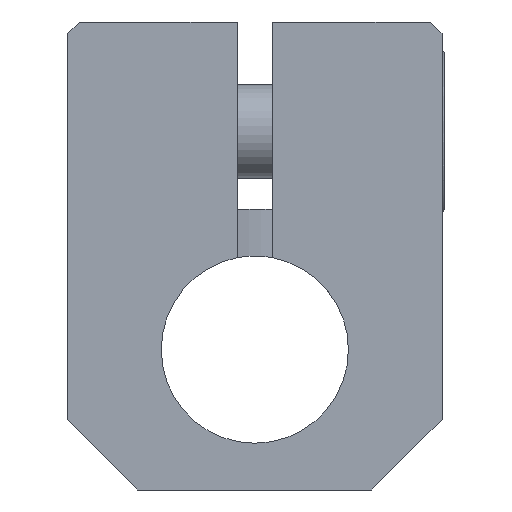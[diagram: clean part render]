
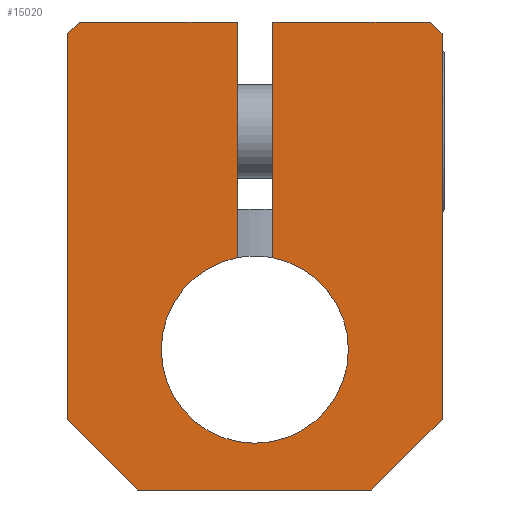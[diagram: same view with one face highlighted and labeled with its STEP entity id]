
A CAD part, front view. The second image highlights one B-rep face of the part: STEP entity #15020.
In plain terms, the highlighted planar face has unit normal (0, -1, 0).
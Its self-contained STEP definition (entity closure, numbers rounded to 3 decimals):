
#26 = CARTESIAN_POINT ( 'NONE',  ( -36.362, 8.446, 0. ) ) ;
#308 = LINE ( 'NONE', #19955, #21726 ) ;
#405 = DIRECTION ( 'NONE',  ( -0.707, 0., 0.707 ) ) ;
#490 = CIRCLE ( 'NONE', #16344, 4. ) ;
#657 = EDGE_CURVE ( 'NONE', #9754, #895, #673, .T. ) ;
#673 = LINE ( 'NONE', #18815, #9529 ) ;
#895 = VERTEX_POINT ( 'NONE', #19862 ) ;
#1007 = ORIENTED_EDGE ( 'NONE', *, *, #11173, .F. ) ;
#1123 = CARTESIAN_POINT ( 'NONE',  ( -45.112, 8.446, 9.5 ) ) ;
#1266 = CARTESIAN_POINT ( 'NONE',  ( -42.112, 8.446, -10. ) ) ;
#1581 = ORIENTED_EDGE ( 'NONE', *, *, #15872, .F. ) ;
#1660 = DIRECTION ( 'NONE',  ( -0.707, 0., -0.707 ) ) ;
#2142 = LINE ( 'NONE', #19389, #15236 ) ;
#2280 = CARTESIAN_POINT ( 'NONE',  ( -37.112, 8.446, -4. ) ) ;
#2556 = ORIENTED_EDGE ( 'NONE', *, *, #16098, .F. ) ;
#2572 = PLANE ( 'NONE',  #14380 ) ;
#2804 = CARTESIAN_POINT ( 'NONE',  ( -45.112, 8.446, -10. ) ) ;
#2978 = DIRECTION ( 'NONE',  ( 0., -1., 0. ) ) ;
#3030 = VECTOR ( 'NONE', #3828, 1000. ) ;
#3295 = LINE ( 'NONE', #3530, #3030 ) ;
#3306 = EDGE_CURVE ( 'NONE', #19712, #17186, #2142, .T. ) ;
#3530 = CARTESIAN_POINT ( 'NONE',  ( -44.612, 8.446, 10. ) ) ;
#3828 = DIRECTION ( 'NONE',  ( 0.707, 0., 0.707 ) ) ;
#3851 = CARTESIAN_POINT ( 'NONE',  ( -37.112, 8.446, -4. ) ) ;
#4129 = AXIS2_PLACEMENT_3D ( 'NONE', #3851, #9193, #14764 ) ;
#4144 = CARTESIAN_POINT ( 'NONE',  ( -36.362, 8.446, -0.071 ) ) ;
#4895 = CARTESIAN_POINT ( 'NONE',  ( -37.112, 8.446, 10. ) ) ;
#5037 = LINE ( 'NONE', #26, #20952 ) ;
#5063 = CARTESIAN_POINT ( 'NONE',  ( -37.862, 8.446, 4.965 ) ) ;
#5084 = VERTEX_POINT ( 'NONE', #17810 ) ;
#5197 = CIRCLE ( 'NONE', #20808, 4. ) ;
#5969 = VERTEX_POINT ( 'NONE', #9578 ) ;
#6075 = VERTEX_POINT ( 'NONE', #6305 ) ;
#6192 = DIRECTION ( 'NONE',  ( 0., 0., 1. ) ) ;
#6305 = CARTESIAN_POINT ( 'NONE',  ( -29.112, 8.446, 9.5 ) ) ;
#6776 = CARTESIAN_POINT ( 'NONE',  ( -37.112, 8.446, -10. ) ) ;
#7203 = ORIENTED_EDGE ( 'NONE', *, *, #657, .F. ) ;
#7501 = VERTEX_POINT ( 'NONE', #10791 ) ;
#7607 = DIRECTION ( 'NONE',  ( -1., 0., 0. ) ) ;
#8213 = CARTESIAN_POINT ( 'NONE',  ( -37.112, 8.446, -4. ) ) ;
#8334 = ORIENTED_EDGE ( 'NONE', *, *, #13811, .T. ) ;
#8383 = EDGE_LOOP ( 'NONE', ( #16024, #21015, #20953, #11665, #21418, #7203, #10353, #8733, #1007, #8334, #20639, #20042, #1581, #2556 ) ) ;
#8589 = CARTESIAN_POINT ( 'NONE',  ( -29.362, 8.446, 9.75 ) ) ;
#8733 = ORIENTED_EDGE ( 'NONE', *, *, #3306, .F. ) ;
#8814 = EDGE_CURVE ( 'NONE', #15565, #895, #12792, .T. ) ;
#8877 = CARTESIAN_POINT ( 'NONE',  ( -37.112, 8.446, 10. ) ) ;
#9193 = DIRECTION ( 'NONE',  ( 0., -1., 0. ) ) ;
#9529 = VECTOR ( 'NONE', #13551, 1000. ) ;
#9578 = CARTESIAN_POINT ( 'NONE',  ( -36.362, 8.446, 10. ) ) ;
#9698 = EDGE_CURVE ( 'NONE', #5969, #11908, #10965, .T. ) ;
#9754 = VERTEX_POINT ( 'NONE', #1266 ) ;
#10353 = ORIENTED_EDGE ( 'NONE', *, *, #10865, .F. ) ;
#10356 = DIRECTION ( 'NONE',  ( -1., 0., 0. ) ) ;
#10791 = CARTESIAN_POINT ( 'NONE',  ( -41.112, 8.446, -4. ) ) ;
#10865 = EDGE_CURVE ( 'NONE', #17186, #9754, #10891, .T. ) ;
#10891 = LINE ( 'NONE', #6776, #17564 ) ;
#10965 = LINE ( 'NONE', #4895, #12956 ) ;
#11050 = CARTESIAN_POINT ( 'NONE',  ( -33.112, 8.446, -4. ) ) ;
#11173 = EDGE_CURVE ( 'NONE', #6075, #19712, #308, .T. ) ;
#11177 = VERTEX_POINT ( 'NONE', #4144 ) ;
#11474 = EDGE_CURVE ( 'NONE', #5084, #12517, #21702, .T. ) ;
#11636 = EDGE_CURVE ( 'NONE', #15565, #12877, #3295, .T. ) ;
#11665 = ORIENTED_EDGE ( 'NONE', *, *, #11636, .F. ) ;
#11908 = VERTEX_POINT ( 'NONE', #22186 ) ;
#12495 = DIRECTION ( 'NONE',  ( 1., 0., 0. ) ) ;
#12517 = VERTEX_POINT ( 'NONE', #13828 ) ;
#12792 = LINE ( 'NONE', #18285, #21693 ) ;
#12808 = EDGE_CURVE ( 'NONE', #5084, #7501, #22848, .T. ) ;
#12877 = VERTEX_POINT ( 'NONE', #14981 ) ;
#12956 = VECTOR ( 'NONE', #17426, 1000. ) ;
#13551 = DIRECTION ( 'NONE',  ( -0.707, 0., 0.707 ) ) ;
#13750 = LINE ( 'NONE', #8877, #18468 ) ;
#13811 = EDGE_CURVE ( 'NONE', #6075, #11908, #15225, .T. ) ;
#13828 = CARTESIAN_POINT ( 'NONE',  ( -37.862, 8.446, 10. ) ) ;
#14065 = CARTESIAN_POINT ( 'NONE',  ( -29.112, 8.446, -7. ) ) ;
#14106 = VECTOR ( 'NONE', #405, 1000. ) ;
#14380 = AXIS2_PLACEMENT_3D ( 'NONE', #2804, #16867, #6192 ) ;
#14764 = DIRECTION ( 'NONE',  ( -1., 0., 0. ) ) ;
#14981 = CARTESIAN_POINT ( 'NONE',  ( -44.612, 8.446, 10. ) ) ;
#15020 = ADVANCED_FACE ( 'NONE', ( #21236 ), #2572, .F. ) ;
#15225 = LINE ( 'NONE', #8589, #14106 ) ;
#15236 = VECTOR ( 'NONE', #1660, 1000. ) ;
#15565 = VERTEX_POINT ( 'NONE', #1123 ) ;
#15872 = EDGE_CURVE ( 'NONE', #18016, #11177, #5197, .T. ) ;
#16024 = ORIENTED_EDGE ( 'NONE', *, *, #12808, .F. ) ;
#16098 = EDGE_CURVE ( 'NONE', #7501, #18016, #490, .T. ) ;
#16344 = AXIS2_PLACEMENT_3D ( 'NONE', #8213, #2978, #22363 ) ;
#16867 = DIRECTION ( 'NONE',  ( 0., 1., 0. ) ) ;
#17186 = VERTEX_POINT ( 'NONE', #19115 ) ;
#17426 = DIRECTION ( 'NONE',  ( 1., 0., 0. ) ) ;
#17564 = VECTOR ( 'NONE', #10356, 1000. ) ;
#17810 = CARTESIAN_POINT ( 'NONE',  ( -37.862, 8.446, -0.071 ) ) ;
#18016 = VERTEX_POINT ( 'NONE', #11050 ) ;
#18285 = CARTESIAN_POINT ( 'NONE',  ( -45.112, 8.446, 1.25 ) ) ;
#18468 = VECTOR ( 'NONE', #12495, 1000. ) ;
#18815 = CARTESIAN_POINT ( 'NONE',  ( -45.112, 8.446, -7. ) ) ;
#19115 = CARTESIAN_POINT ( 'NONE',  ( -32.112, 8.446, -10. ) ) ;
#19317 = DIRECTION ( 'NONE',  ( 0., 0., 1. ) ) ;
#19389 = CARTESIAN_POINT ( 'NONE',  ( -29.112, 8.446, -7. ) ) ;
#19712 = VERTEX_POINT ( 'NONE', #14065 ) ;
#19795 = DIRECTION ( 'NONE',  ( 0., -1., 0. ) ) ;
#19862 = CARTESIAN_POINT ( 'NONE',  ( -45.112, 8.446, -7. ) ) ;
#19955 = CARTESIAN_POINT ( 'NONE',  ( -29.112, 8.446, 0. ) ) ;
#20041 = VECTOR ( 'NONE', #19317, 1000. ) ;
#20042 = ORIENTED_EDGE ( 'NONE', *, *, #21847, .F. ) ;
#20190 = DIRECTION ( 'NONE',  ( 0., 0., -1. ) ) ;
#20639 = ORIENTED_EDGE ( 'NONE', *, *, #9698, .F. ) ;
#20808 = AXIS2_PLACEMENT_3D ( 'NONE', #2280, #19795, #7607 ) ;
#20952 = VECTOR ( 'NONE', #22829, 1000. ) ;
#20953 = ORIENTED_EDGE ( 'NONE', *, *, #21344, .F. ) ;
#21015 = ORIENTED_EDGE ( 'NONE', *, *, #11474, .T. ) ;
#21236 = FACE_OUTER_BOUND ( 'NONE', #8383, .T. ) ;
#21344 = EDGE_CURVE ( 'NONE', #12877, #12517, #13750, .T. ) ;
#21418 = ORIENTED_EDGE ( 'NONE', *, *, #8814, .T. ) ;
#21693 = VECTOR ( 'NONE', #21886, 1000. ) ;
#21702 = LINE ( 'NONE', #5063, #20041 ) ;
#21726 = VECTOR ( 'NONE', #20190, 1000. ) ;
#21847 = EDGE_CURVE ( 'NONE', #11177, #5969, #5037, .T. ) ;
#21886 = DIRECTION ( 'NONE',  ( 0., 0., -1. ) ) ;
#22186 = CARTESIAN_POINT ( 'NONE',  ( -29.612, 8.446, 10. ) ) ;
#22363 = DIRECTION ( 'NONE',  ( -1., 0., 0. ) ) ;
#22829 = DIRECTION ( 'NONE',  ( 0., 0., 1. ) ) ;
#22848 = CIRCLE ( 'NONE', #4129, 4. ) ;
